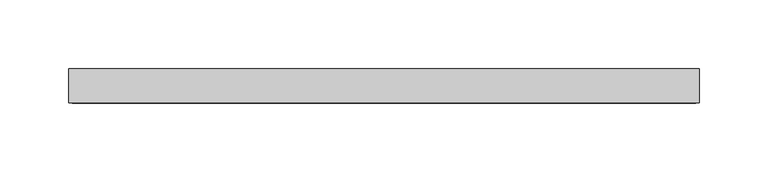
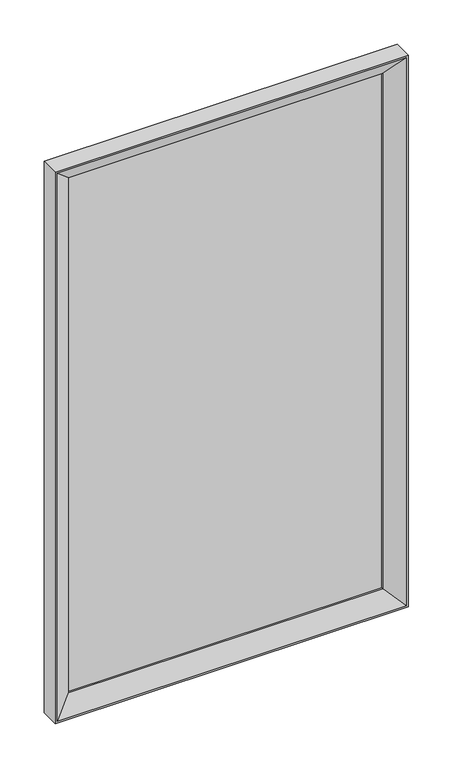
"""IFC4 building model written with IfcOpenShell, lengths in millimetres: proxy geometry, Mirror_Metlam_Framed : 460w x 25d x 760h (ML771_1)."""

from ifc_helpers import new_model, si_unit, frame, origin, place, context, project, spatial, polyline, outline, extrude, faceted_brep, source, transform, mapped, element, save


def specialty_equipment_17e7ff4d(model_context):
    return source(origin(), model_context, "Body", "SolidModel", [
        extrude(outline(polyline([(228.0, -2.0), (228.0, -8.0), (-228.0, -8.0), (-228.0, -2.0), (228.0, -2.0)])), frame((0.0, 0.0, 902.0), z_axis=(0.0, 0.0, 1.0), x_axis=(1.0, 0.0, 0.0)), (0.0, 0.0, 1.0), 756.0),
        faceted_brep([(-230.0, -25.0, 1660.0), (-230.0, 0.0, 1660.0), (-230.0, 0.0, 900.0), (-230.0, -25.0, 900.0), (-205.0, 0.0, 1635.0), (-205.0, -2.0, 1635.0), (-205.0, -2.0, 925.0), (-205.0, 0.0, 925.0), (230.0, 0.0, 900.0), (230.0, -25.0, 900.0), (205.0, -2.0, 925.0), (205.0, 0.0, 925.0), (230.0, 0.0, 1660.0), (230.0, -25.0, 1660.0), (205.0, -2.0, 1635.0), (205.0, 0.0, 1635.0), (-227.4054586, -25.0, 1657.4054586), (227.4054586, -25.0, 1657.4054586), (227.4054586, -25.0, 902.5945414), (-227.4054586, -25.0, 902.5945414), (-228.0, -2.0, 1658.0), (-228.0, -23.0, 1658.0), (-228.0, -23.0, 902.0), (-228.0, -2.0, 902.0), (-205.0, -8.0, 1635.0), (-205.0, -8.0, 925.0), (-205.0, -10.3877444, 1635.0), (-205.0, -10.3877444, 925.0), (228.0, -23.0, 902.0), (228.0, -2.0, 902.0), (205.0, -8.0, 925.0), (205.0, -10.3877444, 925.0), (228.0, -23.0, 1658.0), (228.0, -2.0, 1658.0), (205.0, -8.0, 1635.0), (205.0, -10.3877444, 1635.0)], [[[0, 1, 2, 3]], [[4, 5, 6, 7]], [[3, 2, 8, 9]], [[7, 6, 10, 11]], [[9, 8, 12, 13]], [[11, 10, 14, 15]], [[13, 12, 1, 0]], [[1, 12, 8, 2], [7, 11, 15, 4]], [[15, 14, 5, 4]], [[3, 9, 13, 0], [16, 17, 18, 19]], [[20, 21, 22, 23]], [[21, 24, 25, 22]], [[24, 26, 27, 25]], [[26, 16, 19, 27]], [[23, 22, 28, 29]], [[22, 25, 30, 28]], [[25, 27, 31, 30]], [[27, 19, 18, 31]], [[29, 28, 32, 33]], [[28, 30, 34, 32]], [[30, 31, 35, 34]], [[31, 18, 17, 35]], [[23, 29, 33, 20], [5, 14, 10, 6]], [[33, 32, 21, 20]], [[32, 34, 24, 21]], [[34, 35, 26, 24]], [[35, 17, 16, 26]]]),
    ])


if __name__ == "__main__":
    model = new_model("IFC4")
    model_context = context("Model", 3, world=origin())
    ifc_project = project(units=[si_unit("LENGTHUNIT", "METRE", prefix="MILLI")], contexts=[model_context])
    site = spatial("IfcSite", under=ifc_project)
    building = spatial("IfcBuilding", under=site)
    placement = place(None, origin())
    specialty_equipment_shape = specialty_equipment_17e7ff4d(model_context)
    element("IfcBuildingElementProxy", 1, Name="Mirror_Metlam_Framed : 460w x 25d x 760h (ML771_1)", ObjectType="Mirror_Metlam_Framed : 460w x 25d x 760h (ML771_1)", at=placement, inside=building, context=model_context, shape_type="MappedRepresentation", body=[
        mapped(specialty_equipment_shape, transform((0.0, 0.0, 0.0), x_axis=(1.0, 0.0, 0.0), y_axis=(0.0, 1.0, 0.0), z_axis=(0.0, 0.0, 1.0))),
    ])
    save(model, "model.ifc")
